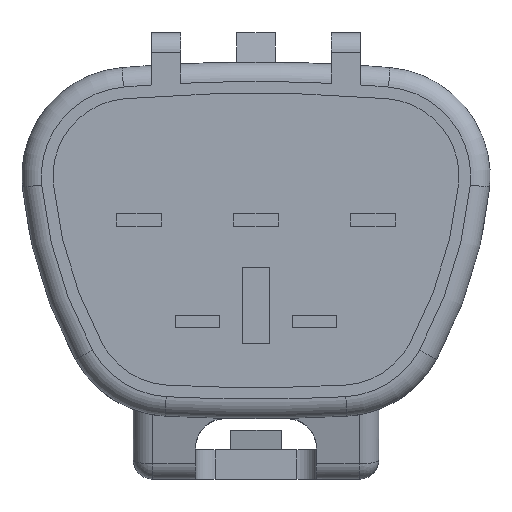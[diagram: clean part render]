
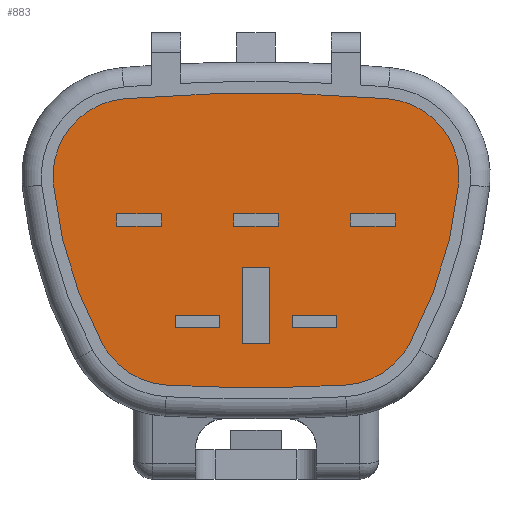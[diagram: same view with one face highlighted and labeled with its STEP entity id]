
A CAD part, left-side view. The second image highlights one B-rep face of the part: STEP entity #883.
In plain terms, the highlighted planar face has unit normal (-1, 0, 0).
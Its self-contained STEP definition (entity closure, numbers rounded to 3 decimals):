
#538=CARTESIAN_POINT('Vertex',(0.,13.863,-6.393)) ;
#554=CARTESIAN_POINT('Vertex',(0.,10.576,-8.471)) ;
#557=CARTESIAN_POINT('Axis2P3D Location',(0.,10.351,-4.478)) ;
#578=CARTESIAN_POINT('Vertex',(0.,16.397,1.844)) ;
#588=CARTESIAN_POINT('Axis2P3D Location',(0.,-5.1,3.95)) ;
#609=CARTESIAN_POINT('Vertex',(0.,12.747,6.22)) ;
#619=CARTESIAN_POINT('Axis2P3D Location',(0.,12.416,2.234)) ;
#631=CARTESIAN_POINT('Axis2P3D Location',(0.,0.,-8.6)) ;
#636=CARTESIAN_POINT('Axis2P3D Location',(0.,1.649,-4.478)) ;
#640=CARTESIAN_POINT('Vertex',(0.,1.424,-8.471)) ;
#642=CARTESIAN_POINT('Vertex',(0.,-1.863,-6.393)) ;
#645=CARTESIAN_POINT('Axis2P3D Location',(0.,17.1,3.95)) ;
#649=CARTESIAN_POINT('Vertex',(0.,-4.397,1.844)) ;
#652=CARTESIAN_POINT('Axis2P3D Location',(0.,-0.416,2.234)) ;
#656=CARTESIAN_POINT('Vertex',(0.,-0.747,6.22)) ;
#659=CARTESIAN_POINT('Axis2P3D Location',(0.,6.,-75.)) ;
#664=CARTESIAN_POINT('Axis2P3D Location',(0.,6.,72.9)) ;
#679=CARTESIAN_POINT('Line Origine',(0.,5.3,-4.4)) ;
#683=CARTESIAN_POINT('Vertex',(0.,5.3,-6.35)) ;
#685=CARTESIAN_POINT('Vertex',(0.,5.3,-2.45)) ;
#688=CARTESIAN_POINT('Line Origine',(0.,6.,-6.35)) ;
#692=CARTESIAN_POINT('Vertex',(0.,6.7,-6.35)) ;
#695=CARTESIAN_POINT('Line Origine',(0.,6.7,-4.4)) ;
#699=CARTESIAN_POINT('Vertex',(0.,6.7,-2.45)) ;
#702=CARTESIAN_POINT('Line Origine',(0.,6.,-2.45)) ;
#713=CARTESIAN_POINT('Line Origine',(0.,-1.15,0.)) ;
#717=CARTESIAN_POINT('Vertex',(0.,-1.15,-0.32)) ;
#719=CARTESIAN_POINT('Vertex',(0.,-1.15,0.32)) ;
#722=CARTESIAN_POINT('Line Origine',(0.,0.,-0.32)) ;
#726=CARTESIAN_POINT('Vertex',(0.,1.15,-0.32)) ;
#729=CARTESIAN_POINT('Line Origine',(0.,1.15,0.)) ;
#733=CARTESIAN_POINT('Vertex',(0.,1.15,0.32)) ;
#736=CARTESIAN_POINT('Line Origine',(0.,0.,0.32)) ;
#747=CARTESIAN_POINT('Line Origine',(0.,4.85,0.)) ;
#751=CARTESIAN_POINT('Vertex',(0.,4.85,-0.32)) ;
#753=CARTESIAN_POINT('Vertex',(0.,4.85,0.32)) ;
#756=CARTESIAN_POINT('Line Origine',(0.,6.,-0.32)) ;
#760=CARTESIAN_POINT('Vertex',(0.,7.15,-0.32)) ;
#763=CARTESIAN_POINT('Line Origine',(0.,7.15,0.)) ;
#767=CARTESIAN_POINT('Vertex',(0.,7.15,0.32)) ;
#770=CARTESIAN_POINT('Line Origine',(0.,6.,0.32)) ;
#781=CARTESIAN_POINT('Line Origine',(0.,10.85,0.)) ;
#785=CARTESIAN_POINT('Vertex',(0.,10.85,-0.32)) ;
#787=CARTESIAN_POINT('Vertex',(0.,10.85,0.32)) ;
#790=CARTESIAN_POINT('Line Origine',(0.,12.,-0.32)) ;
#794=CARTESIAN_POINT('Vertex',(0.,13.15,-0.32)) ;
#797=CARTESIAN_POINT('Line Origine',(0.,13.15,0.)) ;
#801=CARTESIAN_POINT('Vertex',(0.,13.15,0.32)) ;
#804=CARTESIAN_POINT('Line Origine',(0.,12.,0.32)) ;
#815=CARTESIAN_POINT('Line Origine',(0.,1.85,-5.2)) ;
#819=CARTESIAN_POINT('Vertex',(0.,1.85,-5.52)) ;
#821=CARTESIAN_POINT('Vertex',(0.,1.85,-4.88)) ;
#824=CARTESIAN_POINT('Line Origine',(0.,3.,-5.52)) ;
#828=CARTESIAN_POINT('Vertex',(0.,4.15,-5.52)) ;
#831=CARTESIAN_POINT('Line Origine',(0.,4.15,-5.2)) ;
#835=CARTESIAN_POINT('Vertex',(0.,4.15,-4.88)) ;
#838=CARTESIAN_POINT('Line Origine',(0.,3.,-4.88)) ;
#849=CARTESIAN_POINT('Line Origine',(0.,7.85,-5.2)) ;
#853=CARTESIAN_POINT('Vertex',(0.,7.85,-5.52)) ;
#855=CARTESIAN_POINT('Vertex',(0.,7.85,-4.88)) ;
#858=CARTESIAN_POINT('Line Origine',(0.,9.,-5.52)) ;
#862=CARTESIAN_POINT('Vertex',(0.,10.15,-5.52)) ;
#865=CARTESIAN_POINT('Line Origine',(0.,10.15,-5.2)) ;
#869=CARTESIAN_POINT('Vertex',(0.,10.15,-4.88)) ;
#872=CARTESIAN_POINT('Line Origine',(0.,9.,-4.88)) ;
#558=DIRECTION('Axis2P3D Direction',(-1.,0.,0.)) ;
#589=DIRECTION('Axis2P3D Direction',(-1.,0.,0.)) ;
#620=DIRECTION('Axis2P3D Direction',(-1.,0.,0.)) ;
#632=DIRECTION('Axis2P3D Direction',(-1.,0.,-0.)) ;
#633=DIRECTION('Axis2P3D XDirection',(-0.,0.,1.)) ;
#637=DIRECTION('Axis2P3D Direction',(-1.,0.,-0.)) ;
#646=DIRECTION('Axis2P3D Direction',(-1.,0.,-0.)) ;
#653=DIRECTION('Axis2P3D Direction',(-1.,0.,-0.)) ;
#660=DIRECTION('Axis2P3D Direction',(-1.,0.,-0.)) ;
#665=DIRECTION('Axis2P3D Direction',(-1.,0.,-0.)) ;
#680=DIRECTION('Vector Direction',(0.,0.,1.)) ;
#689=DIRECTION('Vector Direction',(0.,1.,0.)) ;
#696=DIRECTION('Vector Direction',(0.,0.,-1.)) ;
#703=DIRECTION('Vector Direction',(0.,-1.,0.)) ;
#714=DIRECTION('Vector Direction',(0.,0.,1.)) ;
#723=DIRECTION('Vector Direction',(0.,1.,0.)) ;
#730=DIRECTION('Vector Direction',(0.,0.,-1.)) ;
#737=DIRECTION('Vector Direction',(0.,-1.,0.)) ;
#748=DIRECTION('Vector Direction',(0.,0.,1.)) ;
#757=DIRECTION('Vector Direction',(0.,1.,0.)) ;
#764=DIRECTION('Vector Direction',(0.,0.,-1.)) ;
#771=DIRECTION('Vector Direction',(0.,-1.,0.)) ;
#782=DIRECTION('Vector Direction',(0.,0.,1.)) ;
#791=DIRECTION('Vector Direction',(0.,1.,0.)) ;
#798=DIRECTION('Vector Direction',(0.,0.,-1.)) ;
#805=DIRECTION('Vector Direction',(0.,-1.,0.)) ;
#816=DIRECTION('Vector Direction',(0.,0.,1.)) ;
#825=DIRECTION('Vector Direction',(0.,1.,0.)) ;
#832=DIRECTION('Vector Direction',(0.,0.,-1.)) ;
#839=DIRECTION('Vector Direction',(0.,-1.,0.)) ;
#850=DIRECTION('Vector Direction',(0.,0.,1.)) ;
#859=DIRECTION('Vector Direction',(0.,1.,0.)) ;
#866=DIRECTION('Vector Direction',(0.,0.,-1.)) ;
#873=DIRECTION('Vector Direction',(0.,-1.,0.)) ;
#559=AXIS2_PLACEMENT_3D('Circle Axis2P3D',#557,#558,$) ;
#590=AXIS2_PLACEMENT_3D('Circle Axis2P3D',#588,#589,$) ;
#621=AXIS2_PLACEMENT_3D('Circle Axis2P3D',#619,#620,$) ;
#634=AXIS2_PLACEMENT_3D('Plane Axis2P3D',#631,#632,#633) ;
#638=AXIS2_PLACEMENT_3D('Circle Axis2P3D',#636,#637,$) ;
#647=AXIS2_PLACEMENT_3D('Circle Axis2P3D',#645,#646,$) ;
#654=AXIS2_PLACEMENT_3D('Circle Axis2P3D',#652,#653,$) ;
#661=AXIS2_PLACEMENT_3D('Circle Axis2P3D',#659,#660,$) ;
#666=AXIS2_PLACEMENT_3D('Circle Axis2P3D',#664,#665,$) ;
#670=ORIENTED_EDGE('',*,*,#644,.T.) ;
#671=ORIENTED_EDGE('',*,*,#651,.T.) ;
#672=ORIENTED_EDGE('',*,*,#658,.T.) ;
#673=ORIENTED_EDGE('',*,*,#663,.T.) ;
#674=ORIENTED_EDGE('',*,*,#623,.T.) ;
#675=ORIENTED_EDGE('',*,*,#592,.T.) ;
#676=ORIENTED_EDGE('',*,*,#561,.T.) ;
#677=ORIENTED_EDGE('',*,*,#668,.T.) ;
#708=ORIENTED_EDGE('',*,*,#687,.F.) ;
#709=ORIENTED_EDGE('',*,*,#694,.F.) ;
#710=ORIENTED_EDGE('',*,*,#701,.F.) ;
#711=ORIENTED_EDGE('',*,*,#706,.F.) ;
#742=ORIENTED_EDGE('',*,*,#721,.F.) ;
#743=ORIENTED_EDGE('',*,*,#728,.F.) ;
#744=ORIENTED_EDGE('',*,*,#735,.F.) ;
#745=ORIENTED_EDGE('',*,*,#740,.F.) ;
#776=ORIENTED_EDGE('',*,*,#755,.F.) ;
#777=ORIENTED_EDGE('',*,*,#762,.F.) ;
#778=ORIENTED_EDGE('',*,*,#769,.F.) ;
#779=ORIENTED_EDGE('',*,*,#774,.F.) ;
#810=ORIENTED_EDGE('',*,*,#789,.F.) ;
#811=ORIENTED_EDGE('',*,*,#796,.F.) ;
#812=ORIENTED_EDGE('',*,*,#803,.F.) ;
#813=ORIENTED_EDGE('',*,*,#808,.F.) ;
#844=ORIENTED_EDGE('',*,*,#823,.F.) ;
#845=ORIENTED_EDGE('',*,*,#830,.F.) ;
#846=ORIENTED_EDGE('',*,*,#837,.F.) ;
#847=ORIENTED_EDGE('',*,*,#842,.F.) ;
#878=ORIENTED_EDGE('',*,*,#857,.F.) ;
#879=ORIENTED_EDGE('',*,*,#864,.F.) ;
#880=ORIENTED_EDGE('',*,*,#871,.F.) ;
#881=ORIENTED_EDGE('',*,*,#876,.F.) ;
#712=FACE_BOUND('',#707,.T.) ;
#746=FACE_BOUND('',#741,.T.) ;
#780=FACE_BOUND('',#775,.T.) ;
#814=FACE_BOUND('',#809,.T.) ;
#848=FACE_BOUND('',#843,.T.) ;
#882=FACE_BOUND('',#877,.T.) ;
#681=VECTOR('Line Direction',#680,1.) ;
#690=VECTOR('Line Direction',#689,1.) ;
#697=VECTOR('Line Direction',#696,1.) ;
#704=VECTOR('Line Direction',#703,1.) ;
#715=VECTOR('Line Direction',#714,1.) ;
#724=VECTOR('Line Direction',#723,1.) ;
#731=VECTOR('Line Direction',#730,1.) ;
#738=VECTOR('Line Direction',#737,1.) ;
#749=VECTOR('Line Direction',#748,1.) ;
#758=VECTOR('Line Direction',#757,1.) ;
#765=VECTOR('Line Direction',#764,1.) ;
#772=VECTOR('Line Direction',#771,1.) ;
#783=VECTOR('Line Direction',#782,1.) ;
#792=VECTOR('Line Direction',#791,1.) ;
#799=VECTOR('Line Direction',#798,1.) ;
#806=VECTOR('Line Direction',#805,1.) ;
#817=VECTOR('Line Direction',#816,1.) ;
#826=VECTOR('Line Direction',#825,1.) ;
#833=VECTOR('Line Direction',#832,1.) ;
#840=VECTOR('Line Direction',#839,1.) ;
#851=VECTOR('Line Direction',#850,1.) ;
#860=VECTOR('Line Direction',#859,1.) ;
#867=VECTOR('Line Direction',#866,1.) ;
#874=VECTOR('Line Direction',#873,1.) ;
#883=ADVANCED_FACE('\X2\FF8AFF9FFF70FF82\X0\ \X2\FF8EFF9EFF83FF9EFF68FF70\X0\',(#678,#712,#746,#780,#814,#848,#882),#635,.T.) ;
#560=CIRCLE('generated circle',#559,4.) ;
#591=CIRCLE('generated circle',#590,21.6) ;
#622=CIRCLE('generated circle',#621,4.) ;
#639=CIRCLE('generated circle',#638,4.) ;
#648=CIRCLE('generated circle',#647,21.6) ;
#655=CIRCLE('generated circle',#654,4.) ;
#662=CIRCLE('generated circle',#661,81.5) ;
#667=CIRCLE('generated circle',#666,81.5) ;
#561=EDGE_CURVE('',#539,#555,#560,.T.) ;
#592=EDGE_CURVE('',#579,#539,#591,.T.) ;
#623=EDGE_CURVE('',#610,#579,#622,.T.) ;
#644=EDGE_CURVE('',#641,#643,#639,.T.) ;
#651=EDGE_CURVE('',#643,#650,#648,.T.) ;
#658=EDGE_CURVE('',#650,#657,#655,.T.) ;
#663=EDGE_CURVE('',#657,#610,#662,.T.) ;
#668=EDGE_CURVE('',#555,#641,#667,.T.) ;
#687=EDGE_CURVE('',#684,#686,#682,.T.) ;
#694=EDGE_CURVE('',#693,#684,#691,.F.) ;
#701=EDGE_CURVE('',#700,#693,#698,.T.) ;
#706=EDGE_CURVE('',#686,#700,#705,.F.) ;
#721=EDGE_CURVE('',#718,#720,#716,.T.) ;
#728=EDGE_CURVE('',#727,#718,#725,.F.) ;
#735=EDGE_CURVE('',#734,#727,#732,.T.) ;
#740=EDGE_CURVE('',#720,#734,#739,.F.) ;
#755=EDGE_CURVE('',#752,#754,#750,.T.) ;
#762=EDGE_CURVE('',#761,#752,#759,.F.) ;
#769=EDGE_CURVE('',#768,#761,#766,.T.) ;
#774=EDGE_CURVE('',#754,#768,#773,.F.) ;
#789=EDGE_CURVE('',#786,#788,#784,.T.) ;
#796=EDGE_CURVE('',#795,#786,#793,.F.) ;
#803=EDGE_CURVE('',#802,#795,#800,.T.) ;
#808=EDGE_CURVE('',#788,#802,#807,.F.) ;
#823=EDGE_CURVE('',#820,#822,#818,.T.) ;
#830=EDGE_CURVE('',#829,#820,#827,.F.) ;
#837=EDGE_CURVE('',#836,#829,#834,.T.) ;
#842=EDGE_CURVE('',#822,#836,#841,.F.) ;
#857=EDGE_CURVE('',#854,#856,#852,.T.) ;
#864=EDGE_CURVE('',#863,#854,#861,.F.) ;
#871=EDGE_CURVE('',#870,#863,#868,.T.) ;
#876=EDGE_CURVE('',#856,#870,#875,.F.) ;
#669=EDGE_LOOP('',(#670,#671,#672,#673,#674,#675,#676,#677)) ;
#707=EDGE_LOOP('',(#708,#709,#710,#711)) ;
#741=EDGE_LOOP('',(#742,#743,#744,#745)) ;
#775=EDGE_LOOP('',(#776,#777,#778,#779)) ;
#809=EDGE_LOOP('',(#810,#811,#812,#813)) ;
#843=EDGE_LOOP('',(#844,#845,#846,#847)) ;
#877=EDGE_LOOP('',(#878,#879,#880,#881)) ;
#678=FACE_OUTER_BOUND('',#669,.T.) ;
#682=LINE('Line',#679,#681) ;
#691=LINE('Line',#688,#690) ;
#698=LINE('Line',#695,#697) ;
#705=LINE('Line',#702,#704) ;
#716=LINE('Line',#713,#715) ;
#725=LINE('Line',#722,#724) ;
#732=LINE('Line',#729,#731) ;
#739=LINE('Line',#736,#738) ;
#750=LINE('Line',#747,#749) ;
#759=LINE('Line',#756,#758) ;
#766=LINE('Line',#763,#765) ;
#773=LINE('Line',#770,#772) ;
#784=LINE('Line',#781,#783) ;
#793=LINE('Line',#790,#792) ;
#800=LINE('Line',#797,#799) ;
#807=LINE('Line',#804,#806) ;
#818=LINE('Line',#815,#817) ;
#827=LINE('Line',#824,#826) ;
#834=LINE('Line',#831,#833) ;
#841=LINE('Line',#838,#840) ;
#852=LINE('Line',#849,#851) ;
#861=LINE('Line',#858,#860) ;
#868=LINE('Line',#865,#867) ;
#875=LINE('Line',#872,#874) ;
#635=PLANE('',#634) ;
#539=VERTEX_POINT('',#538) ;
#555=VERTEX_POINT('',#554) ;
#579=VERTEX_POINT('',#578) ;
#610=VERTEX_POINT('',#609) ;
#641=VERTEX_POINT('',#640) ;
#643=VERTEX_POINT('',#642) ;
#650=VERTEX_POINT('',#649) ;
#657=VERTEX_POINT('',#656) ;
#684=VERTEX_POINT('',#683) ;
#686=VERTEX_POINT('',#685) ;
#693=VERTEX_POINT('',#692) ;
#700=VERTEX_POINT('',#699) ;
#718=VERTEX_POINT('',#717) ;
#720=VERTEX_POINT('',#719) ;
#727=VERTEX_POINT('',#726) ;
#734=VERTEX_POINT('',#733) ;
#752=VERTEX_POINT('',#751) ;
#754=VERTEX_POINT('',#753) ;
#761=VERTEX_POINT('',#760) ;
#768=VERTEX_POINT('',#767) ;
#786=VERTEX_POINT('',#785) ;
#788=VERTEX_POINT('',#787) ;
#795=VERTEX_POINT('',#794) ;
#802=VERTEX_POINT('',#801) ;
#820=VERTEX_POINT('',#819) ;
#822=VERTEX_POINT('',#821) ;
#829=VERTEX_POINT('',#828) ;
#836=VERTEX_POINT('',#835) ;
#854=VERTEX_POINT('',#853) ;
#856=VERTEX_POINT('',#855) ;
#863=VERTEX_POINT('',#862) ;
#870=VERTEX_POINT('',#869) ;
